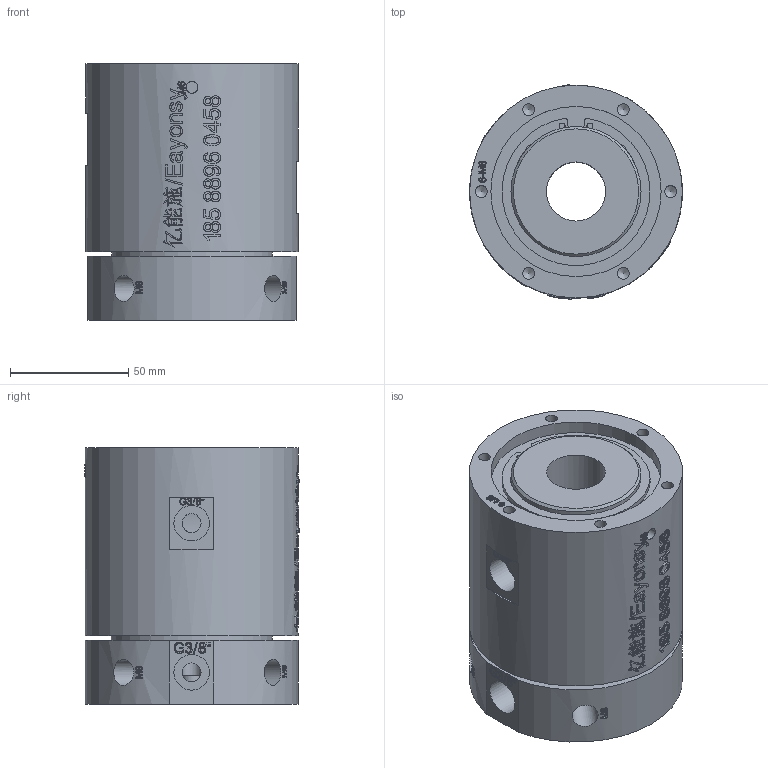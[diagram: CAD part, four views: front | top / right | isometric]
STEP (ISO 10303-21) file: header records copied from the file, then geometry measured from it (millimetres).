
FILE_DESCRIPTION(/* description */ (''),/* implementation_level */ '2;1');
FILE_NAME(/* name */ 'YQ0203D25.stp',/* time_stamp */ '2025-09-04T18:32:27+08:00',/* author */ (''),/* organization */ (''),/* preprocessor_version */ 'ST-DEVELOPER v16.7',/* originating_system */ 'SIEMENS PLM Software NX 12.0',/* authorisation */ '');
FILE_SCHEMA (('AUTOMOTIVE_DESIGN { 1 0 10303 214 3 1 1 1 }'));
Products named in the file (1): Admi8ABC6E1721vd
Bounding box: 90 x 90.57 x 108.9 mm (x, y, z)
Volume: 601003 mm3; surface area: 69228.8 mm2
Topology: 1 solids, 1 shells, 1347 faces, 3663 edges, 2448 vertices
Faces by surface type: extrusion 708, plane 472, cylinder 81, bspline 75, cone 11
Full cylindrical faces by diameter (mm): 2.5 x2, 5 x12, 7 x4, 8 x6, 8.4 x2, 8.5 x2, 11 x4, 15 x4, 25 x1, 52.5 x1, 55 x1, 68 x1, 72 x1, 90 x1
Entity records: 67805 total; most frequent: CARTESIAN_POINT 39550, ORIENTED_EDGE 7108, EDGE_CURVE 3554, B_SPLINE_CURVE_WITH_KNOTS 3443, DIRECTION 2951, VERTEX_POINT 2415, EDGE_LOOP 1557, ADVANCED_FACE 1347
